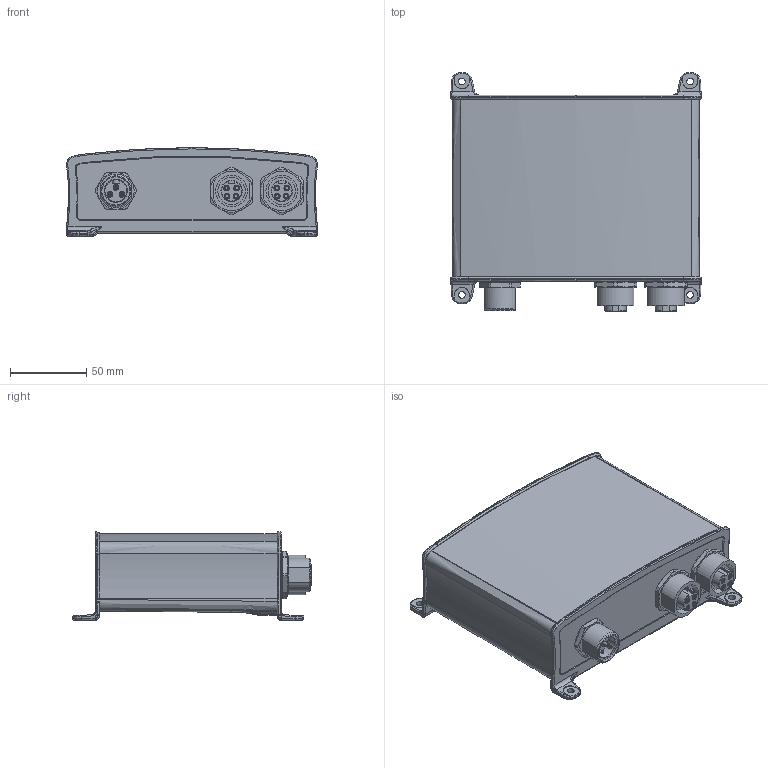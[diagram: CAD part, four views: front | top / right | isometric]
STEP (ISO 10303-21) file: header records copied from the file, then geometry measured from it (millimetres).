
FILE_DESCRIPTION (( 'STEP AP203' ), '1' );
FILE_NAME ('3D-FPS202.241-011.STEP', '2026-06-22T13:05:08', ( '' ), ( '' ), 'SwSTEP 2.0', 'SolidWorks 2024', '' );
FILE_SCHEMA (( 'CONFIG_CONTROL_DESIGN' ));
Length unit declared in the file: millimetre
Products named in the file (1): 3D-FPS202.241-011
Bounding box: 164.8 x 157 x 58.23 mm (x, y, z)
Volume: 999837.5 mm3; surface area: 78197.6 mm2
Topology: 1 solids, 1 shells, 603 faces, 1442 edges, 880 vertices
Faces by surface type: bspline 192, cylinder 157, plane 146, cone 71, torus 37
Full cylindrical faces by diameter (mm): 2 x3, 3 x3, 18.5 x1, 19.9 x1, 20.8 x2, 22.187 x1
Entity records: 30500 total; most frequent: CARTESIAN_POINT 18307, ORIENTED_EDGE 2768, DIRECTION 2126, EDGE_CURVE 1384, AXIS2_PLACEMENT_3D 890, VERTEX_POINT 864, EDGE_LOOP 692, FACE_OUTER_BOUND 620
